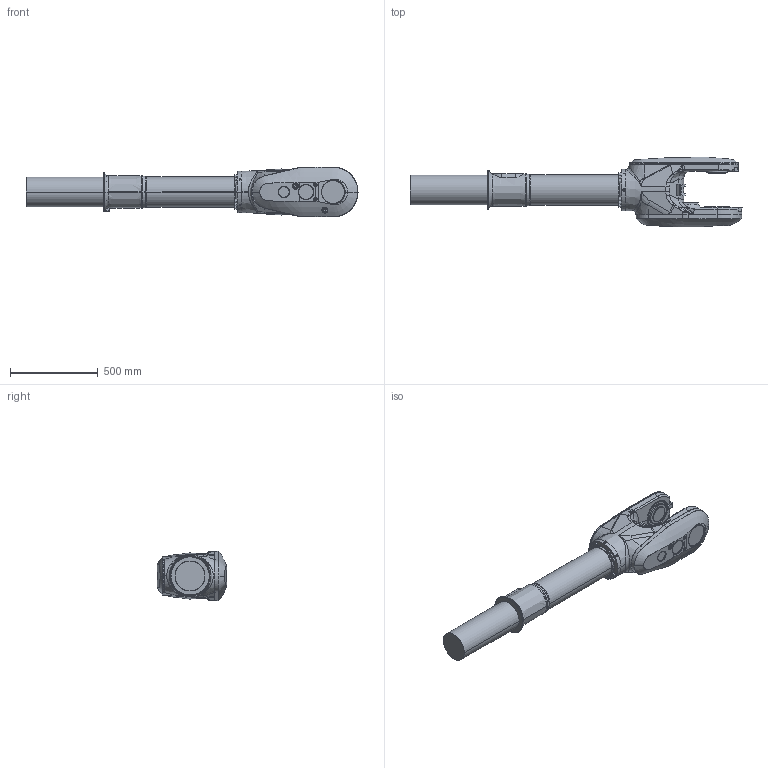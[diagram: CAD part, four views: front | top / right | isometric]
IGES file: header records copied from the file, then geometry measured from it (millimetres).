
Start section: SolidWorks IGES file using analytic representation for surfaces
Global section: file name: C:\Users\SEAMSTO1\OneDrive - ABB\PT\Macro\IGES\IRB6760-MH3_200kg-320_OC_00_IGES_J\IRB6760_All-320_OC_00_LINK04_CAD.igs; native system: SolidWorks 2024; preprocessor: SolidWorks 2024; author: SEAMSTO1; date: 250930.151459; units: millimetre
Bounding box: 1887.5 x 395.55 x 284 mm (x, y, z)
Surface area: 1601441.9 mm2 (no closed solid volume)
Topology: 0 solids, 0 shells, 719 faces, 13141 edges, 13116 vertices
Faces by surface type: bspline 424, revolution 295
